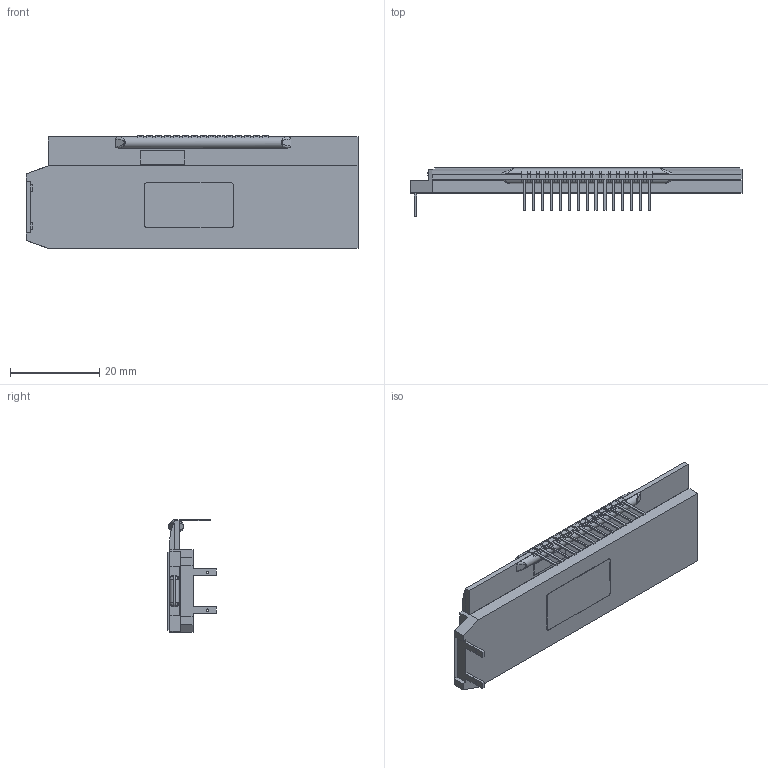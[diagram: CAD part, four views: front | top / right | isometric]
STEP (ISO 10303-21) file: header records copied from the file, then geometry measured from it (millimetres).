
FILE_DESCRIPTION (( 'STEP AP214' ), '1' );
FILE_NAME ('cgc020002e03-fkw-r_3d_asm.STEP', '2020-10-30T14:57:30', ( '' ), ( '' ), 'SwSTEP 2.0', 'SolidWorks 2019', '' );
FILE_SCHEMA (( 'AUTOMOTIVE_DESIGN' ));
Length unit declared in the file: millimetre
Products named in the file (1): cgc020002e03-fkw-r_3d_asm
Bounding box: 74.5 x 10.85 x 25.3 mm (x, y, z)
Volume: 8445.5 mm3; surface area: 9755.6 mm2
Topology: 22 solids, 22 shells, 513 faces, 1335 edges, 881 vertices
Faces by surface type: plane 380, cylinder 114, bspline 17, torus 2
Entity records: 22659 total; most frequent: CARTESIAN_POINT 4118, ORIENTED_EDGE 2656, DIRECTION 2536, EDGE_CURVE 1328, VECTOR 1024, LINE 1024, VERTEX_POINT 881, AXIS2_PLACEMENT_3D 756
